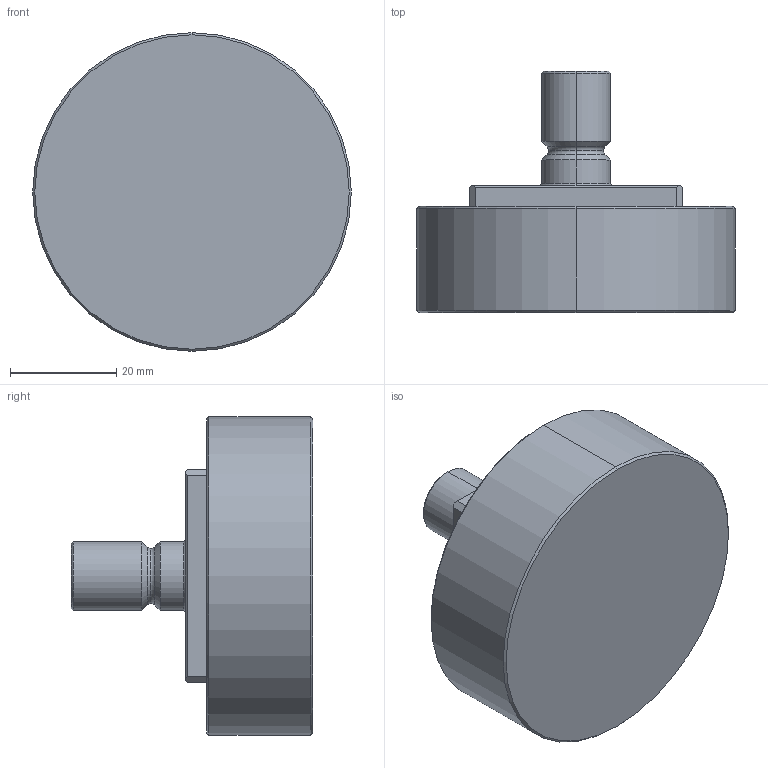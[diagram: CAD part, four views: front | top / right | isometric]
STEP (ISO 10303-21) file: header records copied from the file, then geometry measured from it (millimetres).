
FILE_DESCRIPTION (( 'STEP AP214' ), '1' );
FILE_NAME ('DHP-NTS-SJ311.STEP', '2025-04-16T07:07:50', ( '' ), ( '' ), 'SwSTEP 2.0', 'SolidWorks 2022', '' );
FILE_SCHEMA (( 'AUTOMOTIVE_DESIGN' ));
Length unit declared in the file: millimetre
Products named in the file (1): DHP-NTS-SJ311
Bounding box: 60 x 45.5 x 60 mm (x, y, z)
Volume: 65347.7 mm3; surface area: 11024.1 mm2
Topology: 1 solids, 1 shells, 60 faces, 138 edges, 86 vertices
Faces by surface type: plane 28, cylinder 16, cone 10, torus 6
Entity records: 1724 total; most frequent: DIRECTION 312, CARTESIAN_POINT 285, ORIENTED_EDGE 276, EDGE_CURVE 138, AXIS2_PLACEMENT_3D 113, VECTOR 86, LINE 86, VERTEX_POINT 86
